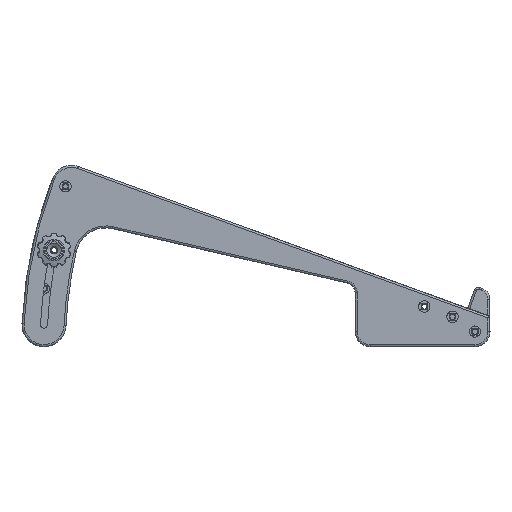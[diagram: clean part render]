
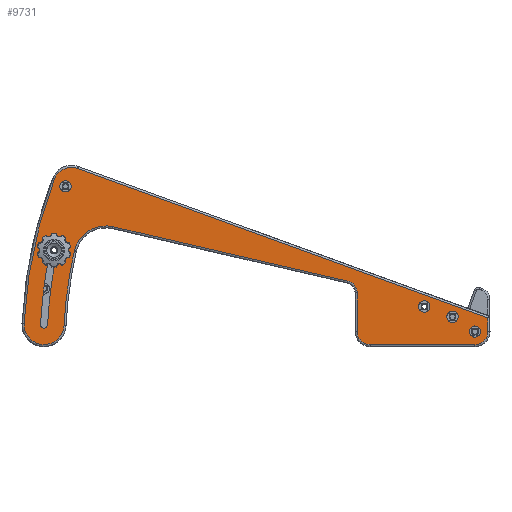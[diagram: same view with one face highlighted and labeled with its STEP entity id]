
A CAD part, left-side view. The second image highlights one B-rep face of the part: STEP entity #9731.
In plain terms, the highlighted planar face has unit normal (-1, 0, 0).
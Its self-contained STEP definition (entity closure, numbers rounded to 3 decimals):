
#367=FACE_BOUND('',#2070,.T.);
#368=FACE_BOUND('',#2071,.T.);
#369=FACE_BOUND('',#2072,.T.);
#370=FACE_BOUND('',#2073,.T.);
#371=FACE_BOUND('',#2074,.T.);
#699=CIRCLE('',#10424,2.85);
#700=CIRCLE('',#10426,2.85);
#721=CIRCLE('',#10474,9.);
#724=CIRCLE('',#10478,232.787);
#727=CIRCLE('',#10482,10.);
#730=CIRCLE('',#10486,212.787);
#733=CIRCLE('',#10490,16.);
#737=CIRCLE('',#10496,6.);
#741=CIRCLE('',#10502,6.5);
#745=CIRCLE('',#10508,6.5);
#755=CIRCLE('',#10526,224.537);
#756=CIRCLE('',#10527,1.75);
#757=CIRCLE('',#10528,221.037);
#758=CIRCLE('',#10529,1.75);
#759=CIRCLE('',#10530,2.8);
#760=CIRCLE('',#10531,2.8);
#1422=FACE_OUTER_BOUND('',#2069,.T.);
#2069=EDGE_LOOP('',(#6788,#6789,#6790,#6791,#6792,#6793,#6794,#6795,#6796,
#6797,#6798,#6799,#6800));
#2070=EDGE_LOOP('',(#6801));
#2071=EDGE_LOOP('',(#6802));
#2072=EDGE_LOOP('',(#6803,#6804,#6805,#6806));
#2073=EDGE_LOOP('',(#6807));
#2074=EDGE_LOOP('',(#6808));
#2815=LINE('',#15166,#3493);
#2816=LINE('',#15202,#3494);
#2818=LINE('',#15214,#3496);
#2820=LINE('',#15226,#3498);
#2822=LINE('',#15234,#3500);
#3493=VECTOR('',#11958,10.);
#3494=VECTOR('',#12005,10.);
#3496=VECTOR('',#12019,10.);
#3498=VECTOR('',#12033,10.);
#3500=VECTOR('',#12045,10.);
#4110=VERTEX_POINT('',#15023);
#4111=VERTEX_POINT('',#15027);
#4154=VERTEX_POINT('',#15163);
#4155=VERTEX_POINT('',#15165);
#4157=VERTEX_POINT('',#15170);
#4159=VERTEX_POINT('',#15176);
#4161=VERTEX_POINT('',#15182);
#4163=VERTEX_POINT('',#15188);
#4165=VERTEX_POINT('',#15194);
#4167=VERTEX_POINT('',#15200);
#4169=VERTEX_POINT('',#15206);
#4171=VERTEX_POINT('',#15212);
#4173=VERTEX_POINT('',#15218);
#4175=VERTEX_POINT('',#15224);
#4176=VERTEX_POINT('',#15229);
#4189=VERTEX_POINT('',#15272);
#4190=VERTEX_POINT('',#15273);
#4191=VERTEX_POINT('',#15275);
#4192=VERTEX_POINT('',#15277);
#4193=VERTEX_POINT('',#15280);
#4194=VERTEX_POINT('',#15282);
#5025=EDGE_CURVE('',#4110,#4110,#699,.T.);
#5027=EDGE_CURVE('',#4111,#4111,#700,.T.);
#5096=EDGE_CURVE('',#4154,#4155,#2815,.T.);
#5099=EDGE_CURVE('',#4157,#4154,#721,.T.);
#5102=EDGE_CURVE('',#4159,#4157,#724,.T.);
#5105=EDGE_CURVE('',#4161,#4159,#727,.T.);
#5108=EDGE_CURVE('',#4163,#4161,#730,.T.);
#5111=EDGE_CURVE('',#4165,#4163,#733,.T.);
#5114=EDGE_CURVE('',#4167,#4165,#2816,.T.);
#5117=EDGE_CURVE('',#4169,#4167,#737,.T.);
#5120=EDGE_CURVE('',#4171,#4169,#2818,.T.);
#5123=EDGE_CURVE('',#4173,#4171,#741,.T.);
#5126=EDGE_CURVE('',#4175,#4173,#2820,.T.);
#5129=EDGE_CURVE('',#4176,#4175,#745,.T.);
#5131=EDGE_CURVE('',#4155,#4176,#2822,.T.);
#5150=EDGE_CURVE('',#4189,#4190,#755,.T.);
#5151=EDGE_CURVE('',#4191,#4190,#756,.T.);
#5152=EDGE_CURVE('',#4191,#4192,#757,.T.);
#5153=EDGE_CURVE('',#4192,#4189,#758,.T.);
#5154=EDGE_CURVE('',#4193,#4193,#759,.T.);
#5155=EDGE_CURVE('',#4194,#4194,#760,.T.);
#6788=ORIENTED_EDGE('',*,*,#5096,.F.);
#6789=ORIENTED_EDGE('',*,*,#5099,.F.);
#6790=ORIENTED_EDGE('',*,*,#5102,.F.);
#6791=ORIENTED_EDGE('',*,*,#5105,.F.);
#6792=ORIENTED_EDGE('',*,*,#5108,.F.);
#6793=ORIENTED_EDGE('',*,*,#5111,.F.);
#6794=ORIENTED_EDGE('',*,*,#5114,.F.);
#6795=ORIENTED_EDGE('',*,*,#5117,.F.);
#6796=ORIENTED_EDGE('',*,*,#5120,.F.);
#6797=ORIENTED_EDGE('',*,*,#5123,.F.);
#6798=ORIENTED_EDGE('',*,*,#5126,.F.);
#6799=ORIENTED_EDGE('',*,*,#5129,.F.);
#6800=ORIENTED_EDGE('',*,*,#5131,.F.);
#6801=ORIENTED_EDGE('',*,*,#5025,.T.);
#6802=ORIENTED_EDGE('',*,*,#5027,.T.);
#6803=ORIENTED_EDGE('',*,*,#5150,.T.);
#6804=ORIENTED_EDGE('',*,*,#5151,.F.);
#6805=ORIENTED_EDGE('',*,*,#5152,.T.);
#6806=ORIENTED_EDGE('',*,*,#5153,.T.);
#6807=ORIENTED_EDGE('',*,*,#5154,.T.);
#6808=ORIENTED_EDGE('',*,*,#5155,.T.);
#9469=PLANE('',#10525);
#9731=ADVANCED_FACE('',(#1422,#367,#368,#369,#370,#371),#9469,.F.);
#10424=AXIS2_PLACEMENT_3D('',#15024,#11814,#11815);
#10426=AXIS2_PLACEMENT_3D('',#15028,#11819,#11820);
#10474=AXIS2_PLACEMENT_3D('',#15172,#11965,#11966);
#10478=AXIS2_PLACEMENT_3D('',#15178,#11973,#11974);
#10482=AXIS2_PLACEMENT_3D('',#15184,#11981,#11982);
#10486=AXIS2_PLACEMENT_3D('',#15190,#11989,#11990);
#10490=AXIS2_PLACEMENT_3D('',#15196,#11997,#11998);
#10496=AXIS2_PLACEMENT_3D('',#15208,#12011,#12012);
#10502=AXIS2_PLACEMENT_3D('',#15220,#12025,#12026);
#10508=AXIS2_PLACEMENT_3D('',#15231,#12039,#12040);
#10525=AXIS2_PLACEMENT_3D('',#15271,#12084,#12085);
#10526=AXIS2_PLACEMENT_3D('',#15274,#12086,#12087);
#10527=AXIS2_PLACEMENT_3D('',#15276,#12088,#12089);
#10528=AXIS2_PLACEMENT_3D('',#15278,#12090,#12091);
#10529=AXIS2_PLACEMENT_3D('',#15279,#12092,#12093);
#10530=AXIS2_PLACEMENT_3D('',#15281,#12094,#12095);
#10531=AXIS2_PLACEMENT_3D('',#15283,#12096,#12097);
#11814=DIRECTION('center_axis',(1.,0.,0.));
#11815=DIRECTION('ref_axis',(0.,-1.,0.));
#11819=DIRECTION('center_axis',(1.,0.,0.));
#11820=DIRECTION('ref_axis',(0.,-1.,0.));
#11958=DIRECTION('',(0.,-0.94,-0.342));
#11965=DIRECTION('center_axis',(1.,0.,0.));
#11966=DIRECTION('ref_axis',(0.,0.414,0.91));
#11973=DIRECTION('center_axis',(1.,0.,0.));
#11974=DIRECTION('ref_axis',(0.,0.978,0.207));
#11981=DIRECTION('center_axis',(1.,0.,0.));
#11982=DIRECTION('ref_axis',(0.,0.049,-0.999));
#11989=DIRECTION('center_axis',(-1.,0.,0.));
#11990=DIRECTION('ref_axis',(0.,0.99,0.138));
#11997=DIRECTION('center_axis',(-1.,0.,0.));
#11998=DIRECTION('ref_axis',(0.,0.53,0.848));
#12005=DIRECTION('',(0.,0.974,0.226));
#12011=DIRECTION('center_axis',(-1.,0.,0.));
#12012=DIRECTION('ref_axis',(0.,-0.783,0.622));
#12019=DIRECTION('',(0.,0.,1.));
#12025=DIRECTION('center_axis',(1.,0.,0.));
#12026=DIRECTION('ref_axis',(0.,0.707,-0.707));
#12033=DIRECTION('',(0.,1.,0.));
#12039=DIRECTION('center_axis',(1.,0.,0.));
#12040=DIRECTION('ref_axis',(0.,-0.707,-0.707));
#12045=DIRECTION('',(0.,0.,-1.));
#12084=DIRECTION('center_axis',(1.,0.,0.));
#12085=DIRECTION('ref_axis',(0.,1.,0.));
#12086=DIRECTION('center_axis',(1.,0.,0.));
#12087=DIRECTION('ref_axis',(0.,0.933,0.359));
#12088=DIRECTION('center_axis',(-1.,0.,0.));
#12089=DIRECTION('ref_axis',(0.,-1.,0.));
#12090=DIRECTION('center_axis',(-1.,0.,0.));
#12091=DIRECTION('ref_axis',(0.,0.974,0.225));
#12092=DIRECTION('center_axis',(1.,0.,0.));
#12093=DIRECTION('ref_axis',(0.,0.999,0.049));
#12094=DIRECTION('center_axis',(1.,0.,0.));
#12095=DIRECTION('ref_axis',(0.,-1.,0.));
#12096=DIRECTION('center_axis',(1.,0.,0.));
#12097=DIRECTION('ref_axis',(0.,-1.,0.));
#15023=CARTESIAN_POINT('',(-135.,-98.15,20.));
#15024=CARTESIAN_POINT('Origin',(-135.,-101.,20.));
#15027=CARTESIAN_POINT('',(-135.,-112.25,14.882));
#15028=CARTESIAN_POINT('Origin',(-135.,-115.1,14.882));
#15163=CARTESIAN_POINT('',(-135.,71.961,88.907));
#15165=CARTESIAN_POINT('',(-135.,-132.787,14.385));
#15166=CARTESIAN_POINT('',(-135.,-130.327,15.28));
#15170=CARTESIAN_POINT('',(-135.,83.438,83.685));
#15172=CARTESIAN_POINT('Origin',(-135.,75.039,80.45));
#15176=CARTESIAN_POINT('',(-135.,98.716,11.494));
#15178=CARTESIAN_POINT('Origin',(-135.,-133.787,0.));
#15182=CARTESIAN_POINT('',(-135.,78.74,10.506));
#15184=CARTESIAN_POINT('Origin',(-135.,88.728,11.));
#15188=CARTESIAN_POINT('',(-135.,73.551,47.847));
#15190=CARTESIAN_POINT('Origin',(-135.,-133.787,0.));
#15194=CARTESIAN_POINT('',(-135.,54.348,59.836));
#15196=CARTESIAN_POINT('Origin',(-135.,57.961,44.249));
#15200=CARTESIAN_POINT('',(-135.,-62.855,32.671));
#15202=CARTESIAN_POINT('',(-135.,-34.451,39.255));
#15206=CARTESIAN_POINT('',(-135.,-67.5,26.826));
#15208=CARTESIAN_POINT('Origin',(-135.,-61.5,26.826));
#15212=CARTESIAN_POINT('',(-135.,-67.501,7.498));
#15214=CARTESIAN_POINT('',(-135.,-67.5,15.399));
#15218=CARTESIAN_POINT('',(-135.,-74.001,0.998));
#15220=CARTESIAN_POINT('Origin',(-135.,-74.001,7.498));
#15224=CARTESIAN_POINT('',(-135.,-126.287,1.));
#15226=CARTESIAN_POINT('',(-135.,-100.144,0.999));
#15229=CARTESIAN_POINT('',(-135.,-132.787,7.5));
#15231=CARTESIAN_POINT('Origin',(-135.,-126.287,7.5));
#15234=CARTESIAN_POINT('',(-135.,-132.787,0.));
#15271=CARTESIAN_POINT('Origin',(-135.,-133.787,0.));
#15272=CARTESIAN_POINT('',(-135.,90.476,11.086));
#15273=CARTESIAN_POINT('',(-135.,85.391,48.762));
#15274=CARTESIAN_POINT('Origin',(-135.,-133.787,0.));
#15275=CARTESIAN_POINT('',(-135.,81.975,48.002));
#15276=CARTESIAN_POINT('Origin',(-135.,83.683,48.382));
#15277=CARTESIAN_POINT('',(-135.,86.98,10.914));
#15278=CARTESIAN_POINT('Origin',(-135.,-133.787,0.));
#15279=CARTESIAN_POINT('Origin',(-135.,88.728,11.));
#15280=CARTESIAN_POINT('',(-135.,-123.487,7.5));
#15281=CARTESIAN_POINT('Origin',(-135.,-126.287,7.5));
#15282=CARTESIAN_POINT('',(-135.,80.8,80.));
#15283=CARTESIAN_POINT('Origin',(-135.,78.,80.));
